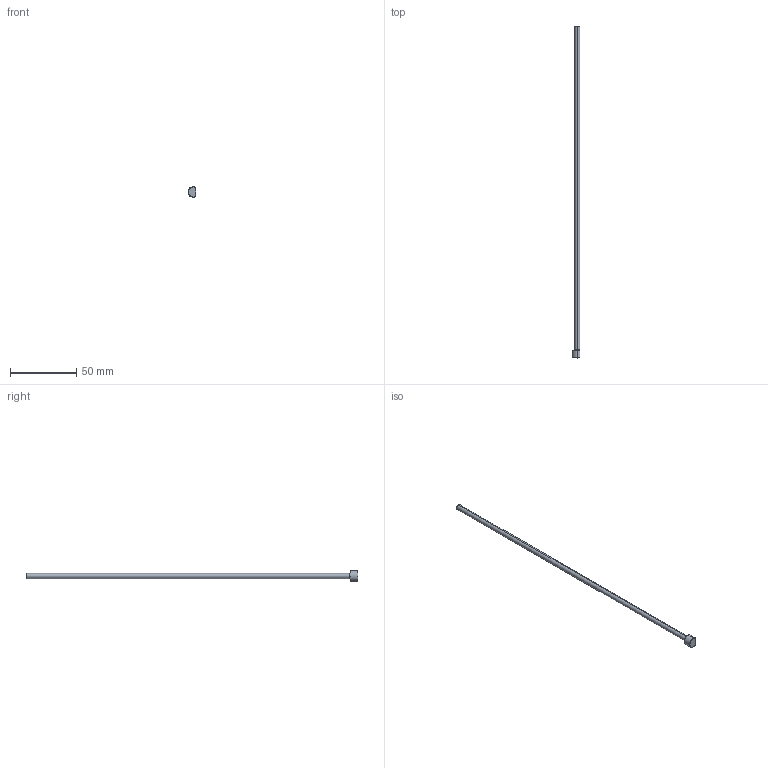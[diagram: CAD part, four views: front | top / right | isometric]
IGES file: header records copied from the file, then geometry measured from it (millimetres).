
Start section: SolidWorks IGES file using analytic representation for surfaces
Global section: file name: C:\Users\365admin\AppData\Local\Temp\InFlowConvert3DWorking\EPJ04L250-K.igs; native system: SolidWorks 2019; preprocessor: SolidWorks 2019; author: 365admin; date: 220405.093222; units: millimetre
Bounding box: 6 x 250 x 8 mm (x, y, z)
Surface area: 3284.1 mm2 (no closed solid volume)
Topology: 0 solids, 0 shells, 18 faces, 185 edges, 185 vertices
Faces by surface type: revolution 11, bspline 7
